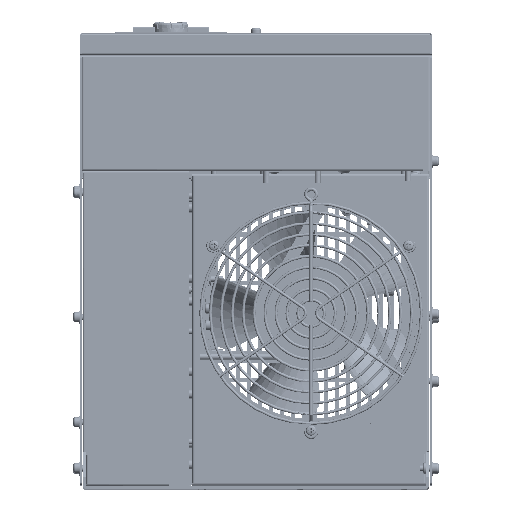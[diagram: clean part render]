
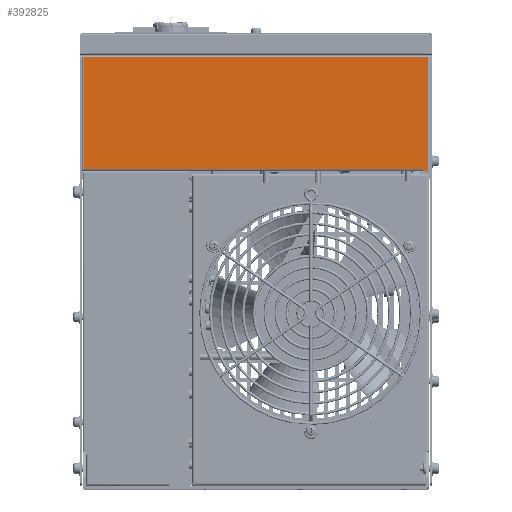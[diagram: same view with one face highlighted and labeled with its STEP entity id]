
A CAD part, top view. The second image highlights one B-rep face of the part: STEP entity #392825.
In plain terms, the highlighted planar face has unit normal (0, 0, 1).
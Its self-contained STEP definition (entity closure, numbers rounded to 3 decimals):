
#42195=FACE_OUTER_BOUND('',#65028,.T.);
#65028=EDGE_LOOP('',(#347207,#347208,#347209,#347210,#347211,#347212));
#103421=LINE('',#700907,#143959);
#103422=LINE('',#700910,#143960);
#103423=LINE('',#700911,#143961);
#103424=LINE('',#700912,#143962);
#103425=LINE('',#700913,#143963);
#103426=LINE('',#700914,#143964);
#143959=VECTOR('',#514761,1.4);
#143960=VECTOR('',#514764,3.9);
#143961=VECTOR('',#514765,77.1);
#143962=VECTOR('',#514766,234.8);
#143963=VECTOR('',#514767,75.7);
#143964=VECTOR('',#514768,230.9);
#189578=VERTEX_POINT('',#700852);
#189581=VERTEX_POINT('',#700859);
#189584=VERTEX_POINT('',#700866);
#189587=VERTEX_POINT('',#700873);
#189596=VERTEX_POINT('',#700905);
#189597=VERTEX_POINT('',#700909);
#242774=EDGE_CURVE('',#189584,#189596,#103421,.T.);
#242775=EDGE_CURVE('',#189596,#189597,#103422,.T.);
#242776=EDGE_CURVE('',#189581,#189597,#103423,.T.);
#242777=EDGE_CURVE('',#189587,#189581,#103424,.T.);
#242778=EDGE_CURVE('',#189578,#189587,#103425,.T.);
#242779=EDGE_CURVE('',#189584,#189578,#103426,.T.);
#347207=ORIENTED_EDGE('',*,*,#242775,.T.);
#347208=ORIENTED_EDGE('',*,*,#242776,.F.);
#347209=ORIENTED_EDGE('',*,*,#242777,.F.);
#347210=ORIENTED_EDGE('',*,*,#242778,.F.);
#347211=ORIENTED_EDGE('',*,*,#242779,.F.);
#347212=ORIENTED_EDGE('',*,*,#242774,.T.);
#372616=PLANE('',#423057);
#392825=ADVANCED_FACE('',(#42195),#372616,.T.);
#423057=AXIS2_PLACEMENT_3D('',#700908,#514762,#514763);
#514761=DIRECTION('',(0.,-1.,0.));
#514762=DIRECTION('center_axis',(0.,0.,1.));
#514763=DIRECTION('ref_axis',(1.,0.,0.));
#514764=DIRECTION('',(1.,0.,0.));
#514765=DIRECTION('',(0.,-1.,0.));
#514766=DIRECTION('',(1.,0.,0.));
#514767=DIRECTION('',(0.,1.,0.));
#514768=DIRECTION('',(-1.,0.,0.));
#700852=CARTESIAN_POINT('',(-117.4,217.9,260.));
#700859=CARTESIAN_POINT('',(117.4,293.6,260.));
#700866=CARTESIAN_POINT('',(113.5,217.9,260.));
#700873=CARTESIAN_POINT('',(-117.4,293.6,260.));
#700905=CARTESIAN_POINT('',(113.5,216.5,260.));
#700907=CARTESIAN_POINT('',(113.5,217.9,260.));
#700908=CARTESIAN_POINT('Origin',(0.,0.,260.));
#700909=CARTESIAN_POINT('',(117.4,216.5,260.));
#700910=CARTESIAN_POINT('',(113.5,216.5,260.));
#700911=CARTESIAN_POINT('',(117.4,293.6,260.));
#700912=CARTESIAN_POINT('',(-117.4,293.6,260.));
#700913=CARTESIAN_POINT('',(-117.4,217.9,260.));
#700914=CARTESIAN_POINT('',(113.5,217.9,260.));
